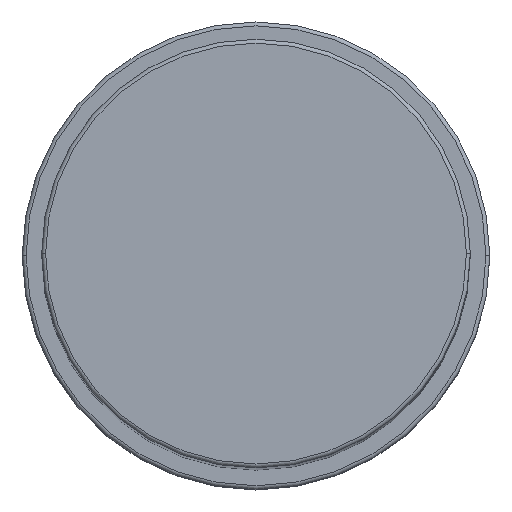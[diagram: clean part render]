
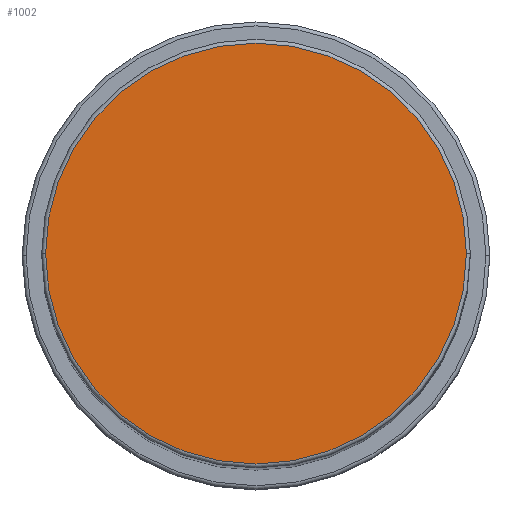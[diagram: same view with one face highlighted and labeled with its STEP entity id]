
A CAD part, top view. The second image highlights one B-rep face of the part: STEP entity #1002.
In plain terms, the highlighted planar face has unit normal (0, 0, 1).
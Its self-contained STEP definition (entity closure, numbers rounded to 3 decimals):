
#1 = VERTEX_POINT ( 'NONE', #1430 ) ;
#233 = DIRECTION ( 'NONE',  ( 0., 0., 1. ) ) ;
#235 = DIRECTION ( 'NONE',  ( 1., 0., 0. ) ) ;
#486 = EDGE_LOOP ( 'NONE', ( #520, #1069 ) ) ;
#520 = ORIENTED_EDGE ( 'NONE', *, *, #1630, .T. ) ;
#623 = DIRECTION ( 'NONE',  ( 1., 0., 0. ) ) ;
#646 = DIRECTION ( 'NONE',  ( 0., 0., 1. ) ) ;
#696 = AXIS2_PLACEMENT_3D ( 'NONE', #1047, #233, #623 ) ;
#767 = EDGE_CURVE ( 'NONE', #1, #1249, #1445, .T. ) ;
#884 = AXIS2_PLACEMENT_3D ( 'NONE', #1375, #1653, #1631 ) ;
#1002 = ADVANCED_FACE ( 'NONE', ( #1385 ), #1460, .T. ) ;
#1047 = CARTESIAN_POINT ( 'NONE',  ( 0., 0., 178. ) ) ;
#1069 = ORIENTED_EDGE ( 'NONE', *, *, #767, .T. ) ;
#1234 = CIRCLE ( 'NONE', #1756, 27. ) ;
#1249 = VERTEX_POINT ( 'NONE', #1655 ) ;
#1375 = CARTESIAN_POINT ( 'NONE',  ( 0., 0., 178. ) ) ;
#1385 = FACE_OUTER_BOUND ( 'NONE', #486, .T. ) ;
#1430 = CARTESIAN_POINT ( 'NONE',  ( -27., 0., 178. ) ) ;
#1445 = CIRCLE ( 'NONE', #884, 27. ) ;
#1460 = PLANE ( 'NONE',  #696 ) ;
#1606 = CARTESIAN_POINT ( 'NONE',  ( 0., 0., 178. ) ) ;
#1630 = EDGE_CURVE ( 'NONE', #1249, #1, #1234, .T. ) ;
#1631 = DIRECTION ( 'NONE',  ( 1., 0., 0. ) ) ;
#1653 = DIRECTION ( 'NONE',  ( 0., 0., 1. ) ) ;
#1655 = CARTESIAN_POINT ( 'NONE',  ( 27., 0., 178. ) ) ;
#1756 = AXIS2_PLACEMENT_3D ( 'NONE', #1606, #646, #235 ) ;
